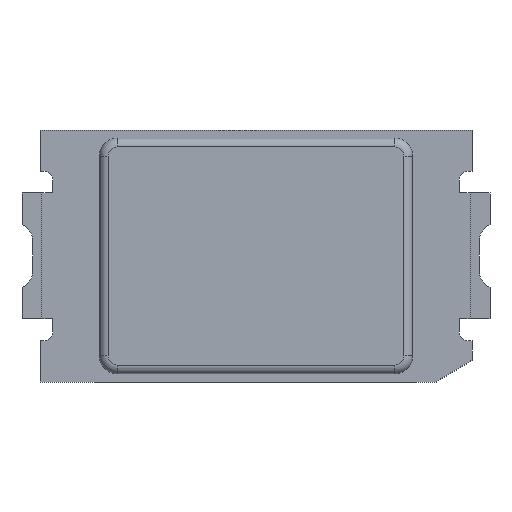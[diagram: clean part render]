
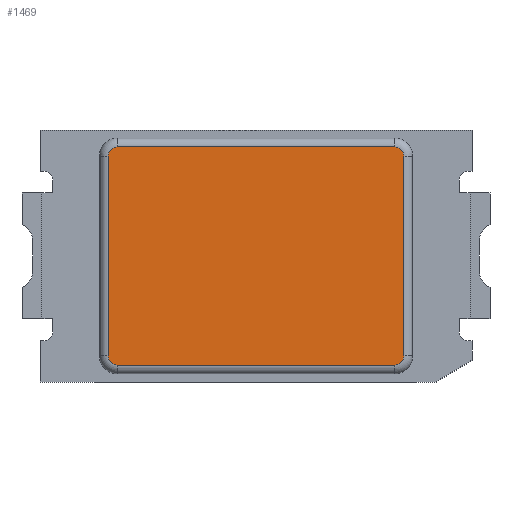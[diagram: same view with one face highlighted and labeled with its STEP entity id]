
A CAD part, front view. The second image highlights one B-rep face of the part: STEP entity #1469.
In plain terms, the highlighted planar face has unit normal (0, -1, 0).
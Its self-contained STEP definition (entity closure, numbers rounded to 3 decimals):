
#5 = CARTESIAN_POINT ( 'NONE',  ( -0.77, 0., -0.606 ) ) ;
#41 = VERTEX_POINT ( 'NONE', #3267 ) ;
#73 = EDGE_CURVE ( 'NONE', #41, #973, #2118, .T. ) ;
#99 = EDGE_CURVE ( 'NONE', #164, #979, #1182, .T. ) ;
#164 = VERTEX_POINT ( 'NONE', #3189 ) ;
#203 = EDGE_CURVE ( 'NONE', #979, #464, #2327, .T. ) ;
#213 = LINE ( 'NONE', #3733, #2784 ) ;
#238 = VERTEX_POINT ( 'NONE', #750 ) ;
#245 = ORIENTED_EDGE ( 'NONE', *, *, #2864, .T. ) ;
#332 = ORIENTED_EDGE ( 'NONE', *, *, #1823, .T. ) ;
#451 = LINE ( 'NONE', #3966, #2857 ) ;
#464 = VERTEX_POINT ( 'NONE', #1878 ) ;
#606 = EDGE_CURVE ( 'NONE', #238, #3936, #1628, .T. ) ;
#664 = DIRECTION ( 'NONE',  ( 0., 0., -1. ) ) ;
#719 = DIRECTION ( 'NONE',  ( 0., -1., 0. ) ) ;
#725 = EDGE_CURVE ( 'NONE', #464, #2392, #2400, .T. ) ;
#750 = CARTESIAN_POINT ( 'NONE',  ( 0.821, 0., 0.555 ) ) ;
#867 = CARTESIAN_POINT ( 'NONE',  ( -0.821, 0., 0.555 ) ) ;
#866 = DIRECTION ( 'NONE',  ( 0., 0., 1. ) ) ;
#914 = DIRECTION ( 'NONE',  ( 0., 0., -1. ) ) ;
#973 = VERTEX_POINT ( 'NONE', #867 ) ;
#979 = VERTEX_POINT ( 'NONE', #5 ) ;
#1042 = AXIS2_PLACEMENT_3D ( 'NONE', #1399, #3661, #3990 ) ;
#1058 = DIRECTION ( 'NONE',  ( -1., 0., 0. ) ) ;
#1182 = CIRCLE ( 'NONE', #3426, 0.051 ) ;
#1228 = DIRECTION ( 'NONE',  ( 0., -1., 0. ) ) ;
#1279 = CARTESIAN_POINT ( 'NONE',  ( 0.821, 0., -0.555 ) ) ;
#1340 = CARTESIAN_POINT ( 'NONE',  ( 0.77, 0., -0.555 ) ) ;
#1399 = CARTESIAN_POINT ( 'NONE',  ( -0.77, 0., 0.555 ) ) ;
#1403 = LINE ( 'NONE', #3375, #3809 ) ;
#1469 = ADVANCED_FACE ( 'NONE', ( #1549 ), #4146, .T. ) ;
#1549 = FACE_OUTER_BOUND ( 'NONE', #1936, .T. ) ;
#1552 = DIRECTION ( 'NONE',  ( 0., 0., -1. ) ) ;
#1628 = CIRCLE ( 'NONE', #4039, 0.051 ) ;
#1640 = AXIS2_PLACEMENT_3D ( 'NONE', #1340, #719, #664 ) ;
#1684 = CARTESIAN_POINT ( 'NONE',  ( 0.77, 0., -0.606 ) ) ;
#1762 = ORIENTED_EDGE ( 'NONE', *, *, #73, .T. ) ;
#1823 = EDGE_CURVE ( 'NONE', #3936, #41, #451, .T. ) ;
#1832 = ORIENTED_EDGE ( 'NONE', *, *, #203, .T. ) ;
#1833 = EDGE_CURVE ( 'NONE', #2392, #238, #1403, .T. ) ;
#1878 = CARTESIAN_POINT ( 'NONE',  ( 0.77, 0., -0.606 ) ) ;
#1936 = EDGE_LOOP ( 'NONE', ( #1832, #3478, #3377, #2239, #332, #1762, #245, #2449 ) ) ;
#2005 = DIRECTION ( 'NONE',  ( 0., -1., 0. ) ) ;
#2118 = CIRCLE ( 'NONE', #1042, 0.051 ) ;
#2176 = VECTOR ( 'NONE', #3894, 1000. ) ;
#2199 = DIRECTION ( 'NONE',  ( 0., -1., 0. ) ) ;
#2239 = ORIENTED_EDGE ( 'NONE', *, *, #606, .T. ) ;
#2327 = LINE ( 'NONE', #1684, #2176 ) ;
#2392 = VERTEX_POINT ( 'NONE', #1279 ) ;
#2400 = CIRCLE ( 'NONE', #1640, 0.051 ) ;
#2445 = DIRECTION ( 'NONE',  ( 0., 0., -1. ) ) ;
#2449 = ORIENTED_EDGE ( 'NONE', *, *, #99, .T. ) ;
#2620 = CARTESIAN_POINT ( 'NONE',  ( 0.77, 0., 0.606 ) ) ;
#2784 = VECTOR ( 'NONE', #2445, 1000. ) ;
#2857 = VECTOR ( 'NONE', #1058, 1000. ) ;
#2864 = EDGE_CURVE ( 'NONE', #973, #164, #213, .T. ) ;
#3021 = CARTESIAN_POINT ( 'NONE',  ( -0.77, 0., -0.555 ) ) ;
#3138 = CARTESIAN_POINT ( 'NONE',  ( 1.2, 0., 0. ) ) ;
#3189 = CARTESIAN_POINT ( 'NONE',  ( -0.821, 0., -0.555 ) ) ;
#3267 = CARTESIAN_POINT ( 'NONE',  ( -0.77, 0., 0.606 ) ) ;
#3344 = DIRECTION ( 'NONE',  ( 0., 0., -1. ) ) ;
#3375 = CARTESIAN_POINT ( 'NONE',  ( 0.821, 0., 0.555 ) ) ;
#3377 = ORIENTED_EDGE ( 'NONE', *, *, #1833, .T. ) ;
#3426 = AXIS2_PLACEMENT_3D ( 'NONE', #3021, #2005, #3344 ) ;
#3478 = ORIENTED_EDGE ( 'NONE', *, *, #725, .T. ) ;
#3567 = AXIS2_PLACEMENT_3D ( 'NONE', #3138, #1228, #914 ) ;
#3661 = DIRECTION ( 'NONE',  ( 0., -1., 0. ) ) ;
#3733 = CARTESIAN_POINT ( 'NONE',  ( -0.821, 0., -0.555 ) ) ;
#3785 = CARTESIAN_POINT ( 'NONE',  ( 0.77, 0., 0.555 ) ) ;
#3809 = VECTOR ( 'NONE', #866, 1000. ) ;
#3894 = DIRECTION ( 'NONE',  ( 1., 0., 0. ) ) ;
#3936 = VERTEX_POINT ( 'NONE', #2620 ) ;
#3966 = CARTESIAN_POINT ( 'NONE',  ( -0.77, 0., 0.606 ) ) ;
#3990 = DIRECTION ( 'NONE',  ( 0., 0., -1. ) ) ;
#4039 = AXIS2_PLACEMENT_3D ( 'NONE', #3785, #2199, #1552 ) ;
#4146 = PLANE ( 'NONE',  #3567 ) ;
